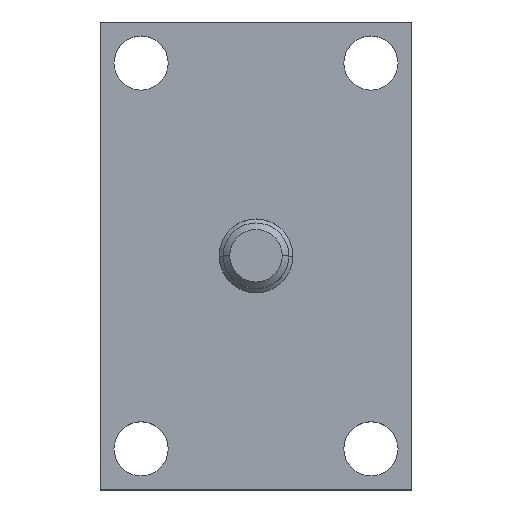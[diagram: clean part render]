
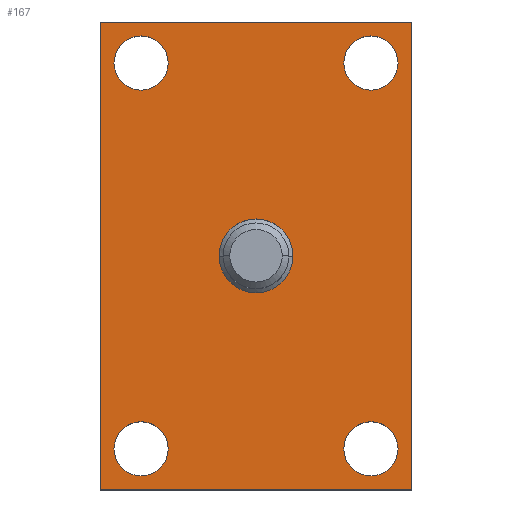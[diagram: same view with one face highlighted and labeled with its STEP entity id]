
A CAD part, top view. The second image highlights one B-rep face of the part: STEP entity #167.
In plain terms, the highlighted planar face has unit normal (0, 0, 1).
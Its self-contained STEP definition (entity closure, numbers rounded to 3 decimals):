
#117=CIRCLE('',#678,3.3);
#118=CIRCLE('',#679,3.3);
#119=CIRCLE('',#680,3.3);
#120=CIRCLE('',#681,3.3);
#121=CIRCLE('',#682,3.3);
#122=CIRCLE('',#683,3.3);
#123=CIRCLE('',#684,3.3);
#124=CIRCLE('',#685,3.3);
#125=CIRCLE('',#686,4.5);
#126=CIRCLE('',#687,4.5);
#149=FACE_BOUND('',#245,.T.);
#150=FACE_BOUND('',#246,.T.);
#151=FACE_BOUND('',#247,.T.);
#152=FACE_BOUND('',#248,.T.);
#153=FACE_BOUND('',#249,.T.);
#154=FACE_BOUND('',#250,.T.);
#167=ADVANCED_FACE('',(#149,#150,#151,#152,#153,#154),#200,.T.);
#200=PLANE('',#688);
#245=EDGE_LOOP('',(#301,#302,#303,#304));
#246=EDGE_LOOP('',(#305,#306));
#247=EDGE_LOOP('',(#307,#308));
#248=EDGE_LOOP('',(#309,#310));
#249=EDGE_LOOP('',(#311,#312));
#250=EDGE_LOOP('',(#313,#314));
#301=ORIENTED_EDGE('',*,*,#498,.T.);
#302=ORIENTED_EDGE('',*,*,#502,.T.);
#303=ORIENTED_EDGE('',*,*,#505,.T.);
#304=ORIENTED_EDGE('',*,*,#508,.T.);
#305=ORIENTED_EDGE('',*,*,#509,.T.);
#306=ORIENTED_EDGE('',*,*,#510,.T.);
#307=ORIENTED_EDGE('',*,*,#511,.T.);
#308=ORIENTED_EDGE('',*,*,#512,.T.);
#309=ORIENTED_EDGE('',*,*,#513,.T.);
#310=ORIENTED_EDGE('',*,*,#514,.T.);
#311=ORIENTED_EDGE('',*,*,#515,.T.);
#312=ORIENTED_EDGE('',*,*,#516,.T.);
#313=ORIENTED_EDGE('',*,*,#517,.T.);
#314=ORIENTED_EDGE('',*,*,#518,.T.);
#446=VERTEX_POINT('',#922);
#447=VERTEX_POINT('',#924);
#450=VERTEX_POINT('',#931);
#452=VERTEX_POINT('',#937);
#453=VERTEX_POINT('',#945);
#454=VERTEX_POINT('',#946);
#455=VERTEX_POINT('',#949);
#456=VERTEX_POINT('',#950);
#457=VERTEX_POINT('',#953);
#458=VERTEX_POINT('',#954);
#459=VERTEX_POINT('',#957);
#460=VERTEX_POINT('',#958);
#461=VERTEX_POINT('',#961);
#462=VERTEX_POINT('',#962);
#498=EDGE_CURVE('',#447,#446,#578,.T.);
#502=EDGE_CURVE('',#446,#450,#582,.T.);
#505=EDGE_CURVE('',#450,#452,#585,.T.);
#508=EDGE_CURVE('',#452,#447,#588,.T.);
#509=EDGE_CURVE('',#453,#454,#117,.T.);
#510=EDGE_CURVE('',#454,#453,#118,.T.);
#511=EDGE_CURVE('',#455,#456,#119,.T.);
#512=EDGE_CURVE('',#456,#455,#120,.T.);
#513=EDGE_CURVE('',#457,#458,#121,.T.);
#514=EDGE_CURVE('',#458,#457,#122,.T.);
#515=EDGE_CURVE('',#459,#460,#123,.T.);
#516=EDGE_CURVE('',#460,#459,#124,.T.);
#517=EDGE_CURVE('',#461,#462,#125,.T.);
#518=EDGE_CURVE('',#462,#461,#126,.T.);
#578=LINE('',#923,#626);
#582=LINE('',#932,#630);
#585=LINE('',#938,#633);
#588=LINE('',#942,#636);
#626=VECTOR('',#742,1.);
#630=VECTOR('',#748,1.);
#633=VECTOR('',#753,1.);
#636=VECTOR('',#758,1.);
#678=AXIS2_PLACEMENT_3D('',#944,#761,#762);
#679=AXIS2_PLACEMENT_3D('',#947,#763,#764);
#680=AXIS2_PLACEMENT_3D('',#948,#765,#766);
#681=AXIS2_PLACEMENT_3D('',#951,#767,#768);
#682=AXIS2_PLACEMENT_3D('',#952,#769,#770);
#683=AXIS2_PLACEMENT_3D('',#955,#771,#772);
#684=AXIS2_PLACEMENT_3D('',#956,#773,#774);
#685=AXIS2_PLACEMENT_3D('',#959,#775,#776);
#686=AXIS2_PLACEMENT_3D('',#960,#777,#778);
#687=AXIS2_PLACEMENT_3D('',#963,#779,#780);
#688=AXIS2_PLACEMENT_3D('',#964,#781,#782);
#742=DIRECTION('',(-1.,0.,0.));
#748=DIRECTION('',(0.,-1.,0.));
#753=DIRECTION('',(1.,0.,0.));
#758=DIRECTION('',(0.,1.,0.));
#761=DIRECTION('',(0.,0.,-1.));
#762=DIRECTION('',(-1.,0.,0.));
#763=DIRECTION('',(0.,0.,-1.));
#764=DIRECTION('',(1.,0.,0.));
#765=DIRECTION('',(0.,0.,-1.));
#766=DIRECTION('',(-1.,0.,0.));
#767=DIRECTION('',(0.,0.,-1.));
#768=DIRECTION('',(1.,0.,0.));
#769=DIRECTION('',(0.,0.,-1.));
#770=DIRECTION('',(-1.,0.,0.));
#771=DIRECTION('',(0.,0.,-1.));
#772=DIRECTION('',(1.,0.,0.));
#773=DIRECTION('',(0.,0.,-1.));
#774=DIRECTION('',(-1.,0.,0.));
#775=DIRECTION('',(0.,0.,-1.));
#776=DIRECTION('',(1.,0.,0.));
#777=DIRECTION('',(0.,0.,-1.));
#778=DIRECTION('',(-1.,0.,0.));
#779=DIRECTION('',(0.,0.,-1.));
#780=DIRECTION('',(1.,0.,0.));
#781=DIRECTION('',(0.,0.,1.));
#782=DIRECTION('',(-1.,0.,0.));
#922=CARTESIAN_POINT('',(-19.,28.5,9.));
#923=CARTESIAN_POINT('',(-19.,28.5,9.));
#924=CARTESIAN_POINT('',(19.,28.5,9.));
#931=CARTESIAN_POINT('',(-19.,-28.5,9.));
#932=CARTESIAN_POINT('',(-19.,28.5,9.));
#937=CARTESIAN_POINT('',(19.,-28.5,9.));
#938=CARTESIAN_POINT('',(-19.,-28.5,9.));
#942=CARTESIAN_POINT('',(19.,28.5,9.));
#944=CARTESIAN_POINT('',(14.,23.5,9.));
#945=CARTESIAN_POINT('',(14.,26.8,9.));
#946=CARTESIAN_POINT('',(14.,20.2,9.));
#947=CARTESIAN_POINT('',(14.,23.5,9.));
#948=CARTESIAN_POINT('',(-14.,23.5,9.));
#949=CARTESIAN_POINT('',(-14.,26.8,9.));
#950=CARTESIAN_POINT('',(-14.,20.2,9.));
#951=CARTESIAN_POINT('',(-14.,23.5,9.));
#952=CARTESIAN_POINT('',(14.,-23.5,9.));
#953=CARTESIAN_POINT('',(14.,-20.2,9.));
#954=CARTESIAN_POINT('',(14.,-26.8,9.));
#955=CARTESIAN_POINT('',(14.,-23.5,9.));
#956=CARTESIAN_POINT('',(-14.,-23.5,9.));
#957=CARTESIAN_POINT('',(-14.,-20.2,9.));
#958=CARTESIAN_POINT('',(-14.,-26.8,9.));
#959=CARTESIAN_POINT('',(-14.,-23.5,9.));
#960=CARTESIAN_POINT('',(0.,0.,9.));
#961=CARTESIAN_POINT('',(0.,4.5,9.));
#962=CARTESIAN_POINT('',(0.,-4.5,9.));
#963=CARTESIAN_POINT('',(0.,0.,9.));
#964=CARTESIAN_POINT('',(19.,28.5,9.));
